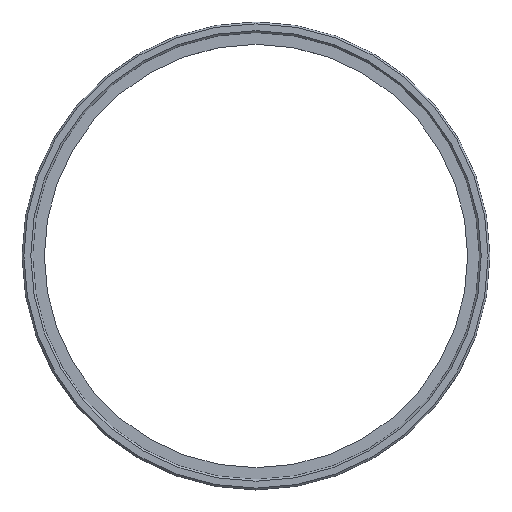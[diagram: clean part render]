
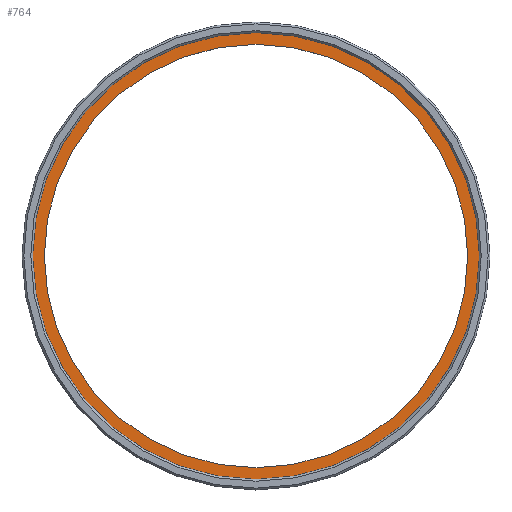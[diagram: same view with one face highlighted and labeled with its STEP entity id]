
A CAD part, top view. The second image highlights one B-rep face of the part: STEP entity #764.
In plain terms, the highlighted planar face has unit normal (0, 0, 1).
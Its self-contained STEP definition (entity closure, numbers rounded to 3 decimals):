
#50 = DIRECTION ( 'NONE',  ( 0., 0., 1. ) ) ;
#58 = EDGE_CURVE ( 'NONE', #128, #111, #835, .T. ) ;
#60 = AXIS2_PLACEMENT_3D ( 'NONE', #324, #50, #137 ) ;
#68 = CARTESIAN_POINT ( 'NONE',  ( -60.15, 0., -7. ) ) ;
#70 = DIRECTION ( 'NONE',  ( 0., 0., -1. ) ) ;
#111 = VERTEX_POINT ( 'NONE', #68 ) ;
#114 = EDGE_CURVE ( 'NONE', #111, #128, #365, .T. ) ;
#126 = DIRECTION ( 'NONE',  ( 0., 0., 1. ) ) ;
#127 = PLANE ( 'NONE',  #206 ) ;
#128 = VERTEX_POINT ( 'NONE', #676 ) ;
#137 = DIRECTION ( 'NONE',  ( 1., 0., 0. ) ) ;
#148 = ORIENTED_EDGE ( 'NONE', *, *, #58, .T. ) ;
#156 = EDGE_CURVE ( 'NONE', #650, #656, #281, .T. ) ;
#188 = DIRECTION ( 'NONE',  ( 1., 0., 0. ) ) ;
#192 = EDGE_CURVE ( 'NONE', #656, #650, #630, .T. ) ;
#203 = CARTESIAN_POINT ( 'NONE',  ( 0., 0., -7. ) ) ;
#206 = AXIS2_PLACEMENT_3D ( 'NONE', #280, #70, #546 ) ;
#235 = ORIENTED_EDGE ( 'NONE', *, *, #114, .T. ) ;
#258 = ORIENTED_EDGE ( 'NONE', *, *, #156, .F. ) ;
#260 = CARTESIAN_POINT ( 'NONE',  ( 0., 0., -7. ) ) ;
#264 = AXIS2_PLACEMENT_3D ( 'NONE', #203, #126, #870 ) ;
#280 = CARTESIAN_POINT ( 'NONE',  ( 0., 60.15, -7. ) ) ;
#281 = CIRCLE ( 'NONE', #434, 57. ) ;
#306 = EDGE_LOOP ( 'NONE', ( #382, #258 ) ) ;
#324 = CARTESIAN_POINT ( 'NONE',  ( 0., 0., -7. ) ) ;
#365 = CIRCLE ( 'NONE', #560, 60.15 ) ;
#382 = ORIENTED_EDGE ( 'NONE', *, *, #192, .F. ) ;
#400 = DIRECTION ( 'NONE',  ( 1., 0., 0. ) ) ;
#410 = DIRECTION ( 'NONE',  ( 0., 0., 1. ) ) ;
#434 = AXIS2_PLACEMENT_3D ( 'NONE', #736, #475, #400 ) ;
#475 = DIRECTION ( 'NONE',  ( 0., 0., 1. ) ) ;
#508 = EDGE_LOOP ( 'NONE', ( #148, #235 ) ) ;
#546 = DIRECTION ( 'NONE',  ( -1., 0., 0. ) ) ;
#560 = AXIS2_PLACEMENT_3D ( 'NONE', #260, #410, #188 ) ;
#630 = CIRCLE ( 'NONE', #264, 57. ) ;
#650 = VERTEX_POINT ( 'NONE', #782 ) ;
#656 = VERTEX_POINT ( 'NONE', #856 ) ;
#676 = CARTESIAN_POINT ( 'NONE',  ( 60.15, 0., -7. ) ) ;
#679 = FACE_OUTER_BOUND ( 'NONE', #508, .T. ) ;
#736 = CARTESIAN_POINT ( 'NONE',  ( 0., 0., -7. ) ) ;
#762 = FACE_BOUND ( 'NONE', #306, .T. ) ;
#764 = ADVANCED_FACE ( 'NONE', ( #762, #679 ), #127, .F. ) ;
#782 = CARTESIAN_POINT ( 'NONE',  ( -57., 0., -7. ) ) ;
#835 = CIRCLE ( 'NONE', #60, 60.15 ) ;
#856 = CARTESIAN_POINT ( 'NONE',  ( 57., 0., -7. ) ) ;
#870 = DIRECTION ( 'NONE',  ( 1., 0., 0. ) ) ;
